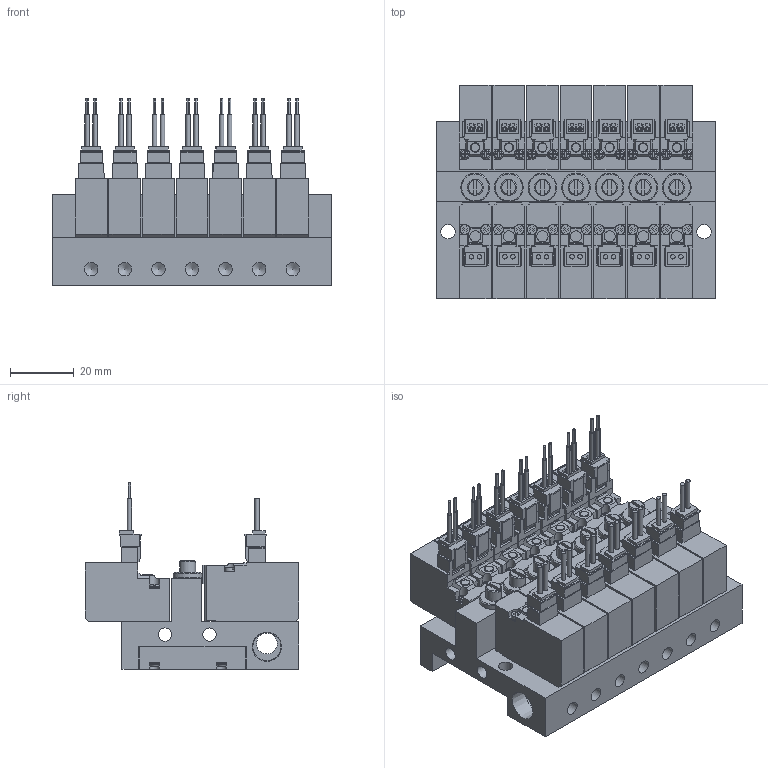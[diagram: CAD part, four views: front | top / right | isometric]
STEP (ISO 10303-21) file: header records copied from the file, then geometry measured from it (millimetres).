
FILE_DESCRIPTION(('STEP AP203'),'1');
FILE_NAME('2-NO(NC)-4EZ-M07.stp','2025-05-09T00:53:56',(' '),(' '),'Spatial InterOp 3D',' ',' ');
FILE_SCHEMA(('CONFIG_CONTROL_DESIGN'));
Length unit declared in the file: millimetre
Products named in the file (79): PV1※2-NO(NC)-4EZ-M07; BODY; PLATE; NEEDLE; BOLT; SOLENOID VALVE VOLTAGE PV; 42; 45; 48; 51; SOLENOID VALVE VOLTAGE PV-NC2
Assembly tree (78 placements, depth 3):
  PV1※2-NO(NC)-4EZ-M07
    BODY
    PLATE
    PLATE
    NEEDLE
    BOLT
    BOLT
    BOLT
    BOLT
    BOLT
    BOLT
    SOLENOID VALVE VOLTAGE PV
      42
      45
      48
      51
    NEEDLE
    SOLENOID VALVE VOLTAGE PV
      42
      45
      48
      51
    NEEDLE
    SOLENOID VALVE VOLTAGE PV
      42
      45
      48
      51
    PLATE
    BOLT
    BOLT
    BOLT
    PLATE
    BOLT
    BOLT
    BOLT
    NEEDLE
    SOLENOID VALVE VOLTAGE PV
      42
      45
      48
      51
    NEEDLE
    SOLENOID VALVE VOLTAGE PV
      42
      45
      48
      51
    PLATE
    BOLT
    BOLT
    BOLT
    SOLENOID VALVE VOLTAGE PV
      42
      45
      48
      51
    NEEDLE
    PLATE
    BOLT
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Bounding box: 87 x 66.8 x 58.25 mm (x, y, z)
Volume: 144840.7 mm3; surface area: 73413.5 mm2
Topology: 71 solids, 71 shells, 2818 faces, 7853 edges, 5333 vertices
Faces by surface type: plane 2095, cylinder 497, torus 112, bspline 70, cone 44
Full cylindrical faces by diameter (mm): 1.4 x14, 2 x21, 3 x35, 3.5 x7, 4.2 x16, 4.5 x2, 5 x7, 6.5 x1, 8.797 x2, 9 x7
Entity records: 94106 total; most frequent: CARTESIAN_POINT 17115, DIRECTION 15242, ORIENTED_EDGE 15126, EDGE_CURVE 7563, VERTEX_POINT 5234, LINE 5216, VECTOR 5216, AXIS2_PLACEMENT_3D 5013
